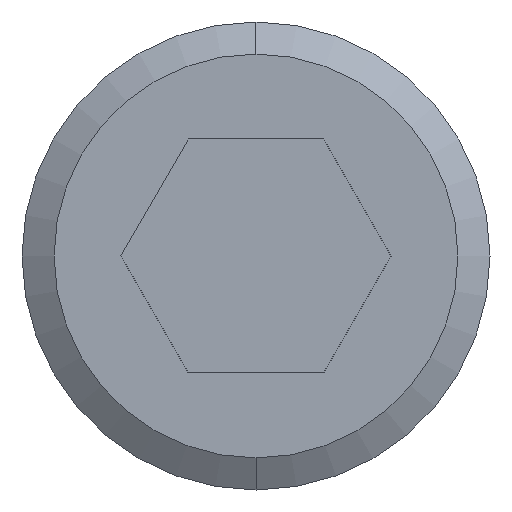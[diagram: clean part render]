
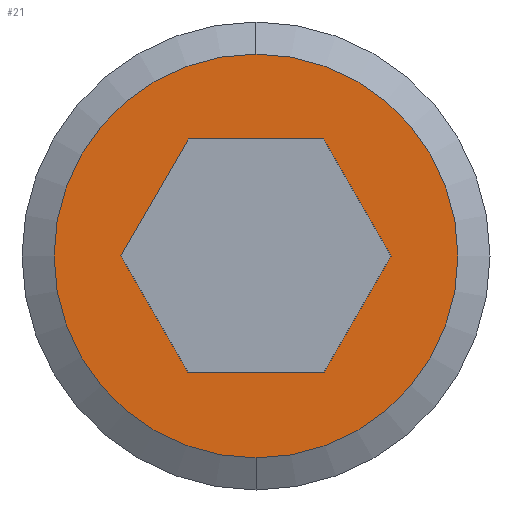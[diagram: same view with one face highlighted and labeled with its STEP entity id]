
A CAD part, left-side view. The second image highlights one B-rep face of the part: STEP entity #21.
In plain terms, the highlighted planar face has unit normal (-1, 0, 0).
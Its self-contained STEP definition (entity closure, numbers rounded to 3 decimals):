
#3 = ORIENTED_EDGE ( 'NONE', *, *, #31, .F. ) ;
#4 = EDGE_CURVE ( 'NONE', #18, #16, #203, .T. ) ;
#5 = EDGE_CURVE ( 'NONE', #6, #18, #199, .T. ) ;
#6 = VERTEX_POINT ( 'NONE', #195 ) ;
#7 = ORIENTED_EDGE ( 'NONE', *, *, #8, .F. ) ;
#8 = EDGE_CURVE ( 'NONE', #9, #6, #194, .T. ) ;
#9 = VERTEX_POINT ( 'NONE', #190 ) ;
#10 = ORIENTED_EDGE ( 'NONE', *, *, #11, .F. ) ;
#11 = EDGE_CURVE ( 'NONE', #12, #9, #189, .T. ) ;
#12 = VERTEX_POINT ( 'NONE', #185 ) ;
#13 = ORIENTED_EDGE ( 'NONE', *, *, #14, .F. ) ;
#14 = EDGE_CURVE ( 'NONE', #16, #17, #184, .T. ) ;
#15 = ORIENTED_EDGE ( 'NONE', *, *, #4, .F. ) ;
#16 = VERTEX_POINT ( 'NONE', #180 ) ;
#17 = VERTEX_POINT ( 'NONE', #179 ) ;
#18 = VERTEX_POINT ( 'NONE', #239 ) ;
#19 = ORIENTED_EDGE ( 'NONE', *, *, #5, .F. ) ;
#20 = EDGE_LOOP ( 'NONE', ( #13, #15, #19, #7, #10, #3 ) ) ;
#21 = ADVANCED_FACE ( 'NONE', ( #238, #237 ), #236, .F. ) ;
#27 = EDGE_CURVE ( 'NONE', #37, #36, #223, .T. ) ;
#28 = ORIENTED_EDGE ( 'NONE', *, *, #27, .T. ) ;
#29 = ORIENTED_EDGE ( 'NONE', *, *, #35, .T. ) ;
#30 = EDGE_LOOP ( 'NONE', ( #28, #29 ) ) ;
#31 = EDGE_CURVE ( 'NONE', #17, #12, #218, .T. ) ;
#35 = EDGE_CURVE ( 'NONE', #36, #37, #269, .T. ) ;
#36 = VERTEX_POINT ( 'NONE', #264 ) ;
#37 = VERTEX_POINT ( 'NONE', #263 ) ;
#179 = CARTESIAN_POINT ( 'NONE',  ( 0., 2.309, -4. ) ) ;
#180 = CARTESIAN_POINT ( 'NONE',  ( 0., 4.619, 0. ) ) ;
#181 = DIRECTION ( 'NONE',  ( 0., -0.5, -0.866 ) ) ;
#182 = VECTOR ( 'NONE', #181, 1000. ) ;
#183 = CARTESIAN_POINT ( 'NONE',  ( 0., 4.619, 0. ) ) ;
#184 = LINE ( 'NONE', #183, #182 ) ;
#185 = CARTESIAN_POINT ( 'NONE',  ( 0., -2.309, -4. ) ) ;
#186 = DIRECTION ( 'NONE',  ( 0., -0.5, 0.866 ) ) ;
#187 = VECTOR ( 'NONE', #186, 1000. ) ;
#188 = CARTESIAN_POINT ( 'NONE',  ( 0., -2.309, -4. ) ) ;
#189 = LINE ( 'NONE', #188, #187 ) ;
#190 = CARTESIAN_POINT ( 'NONE',  ( 0., -4.619, 0. ) ) ;
#191 = DIRECTION ( 'NONE',  ( 0., 0.5, 0.866 ) ) ;
#192 = VECTOR ( 'NONE', #191, 1000. ) ;
#193 = CARTESIAN_POINT ( 'NONE',  ( 0., -4.619, 0. ) ) ;
#194 = LINE ( 'NONE', #193, #192 ) ;
#195 = CARTESIAN_POINT ( 'NONE',  ( 0., -2.309, 4. ) ) ;
#196 = DIRECTION ( 'NONE',  ( 0., 1., 0. ) ) ;
#197 = VECTOR ( 'NONE', #196, 1000. ) ;
#198 = CARTESIAN_POINT ( 'NONE',  ( 0., -2.309, 4. ) ) ;
#199 = LINE ( 'NONE', #198, #197 ) ;
#200 = DIRECTION ( 'NONE',  ( 0., 0.5, -0.866 ) ) ;
#201 = VECTOR ( 'NONE', #200, 1000. ) ;
#202 = CARTESIAN_POINT ( 'NONE',  ( 0., 2.309, 4. ) ) ;
#203 = LINE ( 'NONE', #202, #201 ) ;
#215 = DIRECTION ( 'NONE',  ( 0., -1., 0. ) ) ;
#216 = VECTOR ( 'NONE', #215, 1000. ) ;
#217 = CARTESIAN_POINT ( 'NONE',  ( 0., 2.309, -4. ) ) ;
#218 = LINE ( 'NONE', #217, #216 ) ;
#219 = DIRECTION ( 'NONE',  ( 0., 0., 1. ) ) ;
#220 = DIRECTION ( 'NONE',  ( -1., 0., 0. ) ) ;
#221 = CARTESIAN_POINT ( 'NONE',  ( 0., 0., 0. ) ) ;
#222 = AXIS2_PLACEMENT_3D ( 'NONE', #221, #220, #219 ) ;
#223 = CIRCLE ( 'NONE', #222, 6.902 ) ;
#232 = DIRECTION ( 'NONE',  ( 0., 0., -1. ) ) ;
#233 = DIRECTION ( 'NONE',  ( 1., 0., 0. ) ) ;
#234 = CARTESIAN_POINT ( 'NONE',  ( 0., 0., 0. ) ) ;
#235 = AXIS2_PLACEMENT_3D ( 'NONE', #234, #233, #232 ) ;
#236 = PLANE ( 'NONE',  #235 ) ;
#237 = FACE_OUTER_BOUND ( 'NONE', #30, .T. ) ;
#238 = FACE_BOUND ( 'NONE', #20, .T. ) ;
#239 = CARTESIAN_POINT ( 'NONE',  ( 0., 2.309, 4. ) ) ;
#263 = CARTESIAN_POINT ( 'NONE',  ( 0., 0., -6.902 ) ) ;
#264 = CARTESIAN_POINT ( 'NONE',  ( 0., 0., 6.902 ) ) ;
#265 = DIRECTION ( 'NONE',  ( 0., 0., 1. ) ) ;
#266 = DIRECTION ( 'NONE',  ( -1., 0., 0. ) ) ;
#267 = CARTESIAN_POINT ( 'NONE',  ( 0., 0., 0. ) ) ;
#268 = AXIS2_PLACEMENT_3D ( 'NONE', #267, #266, #265 ) ;
#269 = CIRCLE ( 'NONE', #268, 6.902 ) ;
